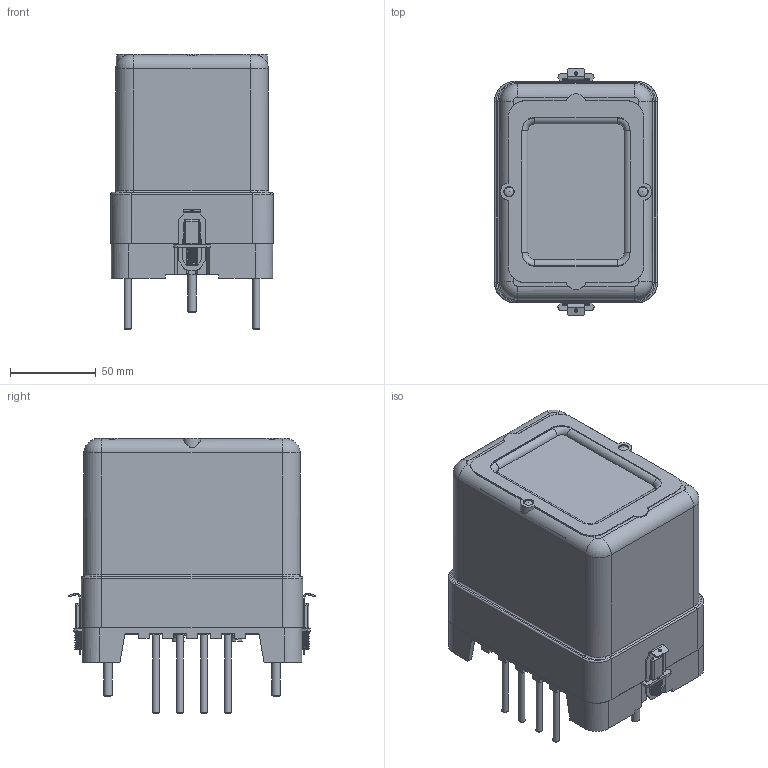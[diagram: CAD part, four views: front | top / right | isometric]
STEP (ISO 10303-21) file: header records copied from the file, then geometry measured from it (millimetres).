
FILE_DESCRIPTION(('STEP AP214'), '1');
FILE_NAME('ÐÂ113, ÐÂ127, ÐÂ133, ÐÂ143 ç.ï.øï', '', ('UNSPECIFIED'), ('UNSPECIFIED'), 'ASCON STEP Converter 1.3', 'ASCON Math Kernel', '');
FILE_SCHEMA(('AUTOMOTIVE_DESIGN { 1 0 10303 214 3 1 1}'));
Length unit declared in the file: millimetre
Bounding box: 95 x 144 x 160.5 mm (x, y, z)
Volume: 222396 mm3; surface area: 163066.8 mm2
Topology: 4 solids, 4 shells, 1233 faces, 3141 edges, 1943 vertices
Faces by surface type: plane 694, cylinder 351, torus 99, cone 36, sphere 35, bspline 18
Full cylindrical faces by diameter (mm): 1.9 x2, 2 x2, 3 x2, 3.2 x2, 3.3 x7, 3.5 x2, 4 x12, 4.3 x2, 4.5 x5, 5 x4, 5.3 x1, 5.5 x20, 6 x2, 8 x2, 9 x1, 11 x2, 15 x2
Entity records: 57654 total; most frequent: CARTESIAN_POINT 18504, DIRECTION 6090, ORIENTED_EDGE 5946, EDGE_CURVE 2973, AXIS2_PLACEMENT_3D 2123, VERTEX_POINT 1935, LINE 1844, VECTOR 1844
